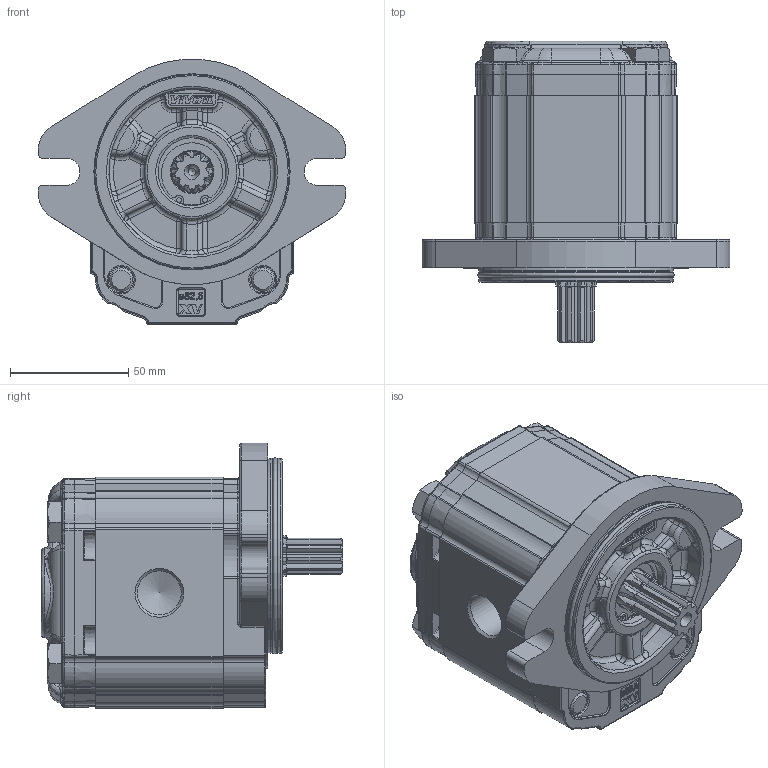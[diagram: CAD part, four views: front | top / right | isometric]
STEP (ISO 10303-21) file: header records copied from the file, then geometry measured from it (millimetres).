
FILE_DESCRIPTION(/* description */ ('Unknown'),/* implementation_level */ '2;1');
FILE_NAME(/* name */ 'X2U4551IBBA',/* time_stamp */ '2021-04-26T09:11:30+02:00',/* author */ ('Unknown'),/* organization */ ('Unknown'),/* preprocessor_version */ 'ST-DEVELOPER v16.7',/* originating_system */ 'Solid Edge',/* authorisation */ 'Unknown');
FILE_SCHEMA (('AUTOMOTIVE_DESIGN {1 0 10303 214 3 1 1}'));
Products named in the file (5): X2U4551IBBA; X2U51; 2I; X2BBH54; XU219-A
Assembly tree (4 placements, depth 2):
  X2U4551IBBA
    X2U51
    2I
    X2BBH54
    XU219-A
Bounding box: 130.38 x 127.7 x 112.3 mm (x, y, z)
Volume: 721436.9 mm3; surface area: 108341.8 mm2
Topology: 4 solids, 5 shells, 2204 faces, 5442 edges, 3303 vertices
Faces by surface type: cylinder 650, plane 590, bspline 537, torus 285, cone 104, sphere 38
Full cylindrical faces by diameter (mm): 2 x2, 10 x4, 10.5 x6, 11 x2, 16 x4, 17.42 x1, 18 x1, 18.631 x1, 19 x1, 20.595 x1, 23.332 x1, 25.834 x1, 28.5 x1, 28.56 x1, 28.57 x1, 28.8 x1, 30.4 x1, 79.6 x2, 82.5 x2
Entity records: 92257 total; most frequent: CARTESIAN_POINT 30197, ORIENTED_EDGE 10500, DIRECTION 8857, EDGE_CURVE 5250, AXIS2_PLACEMENT_3D 3383, VERTEX_POINT 3239, FACE_BOUND 2399, EDGE_LOOP 2396
